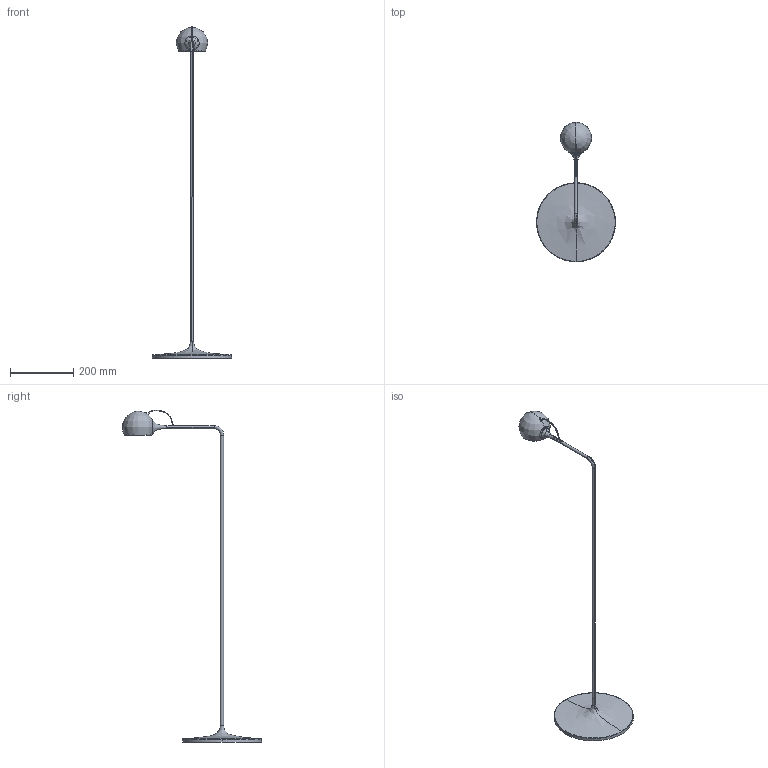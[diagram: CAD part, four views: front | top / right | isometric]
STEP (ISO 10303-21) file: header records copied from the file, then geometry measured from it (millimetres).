
FILE_DESCRIPTION(/* description */ (''),/* implementation_level */ '2;1');
FILE_NAME(/* name */ '086879_--IXA READING_SEMPL',/* time_stamp */ '2022-12-12T17:20:58+01:00',/* author */ (''),/* organization */ (''),/* preprocessor_version */ 'ST-DEVELOPER v16.5',/* originating_system */ 'Rhino 7.22',/* authorisation */ '');
FILE_SCHEMA (('AUTOMOTIVE_DESIGN'));
Length unit declared in the file: millimetre
Products named in the file (8): Document; Y201003232_--PULSANTE; WAP6161_--IXA LAV. SFERA CON PERNO SALDATO_MODEL; Y102016299_--SFERA METALLICA D100; Y203001026_--VELLUTO ADESIVO FUST. X SFERA; WAP6892_--IXA TUB.D10 LETTURA_INS.SALDATO; Y104004655_--IXA TUBOLARE D10 LETTURA; Y104004507_--RACCORDO TESTA
Assembly tree (7 placements, depth 3):
  Document
    Y201003232_--PULSANTE
    WAP6161_--IXA LAV. SFERA CON PERNO SALDATO_MODEL
      Y102016299_--SFERA METALLICA D100
    Y203001026_--VELLUTO ADESIVO FUST. X SFERA
    WAP6892_--IXA TUB.D10 LETTURA_INS.SALDATO
      Y104004655_--IXA TUBOLARE D10 LETTURA
    Y104004507_--RACCORDO TESTA
Bounding box: 250.05 x 439.99 x 1050.28 mm (x, y, z)
Volume: 868520.9 mm3; surface area: 226060.6 mm2
Topology: 7 solids, 10 shells, 108 faces, 278 edges, 180 vertices
Faces by surface type: bspline 57, cylinder 33, plane 18
Entity records: 5731 total; most frequent: CARTESIAN_POINT 3728, ORIENTED_EDGE 526, EDGE_CURVE 269, VERTEX_POINT 176, EDGE_LOOP 121, ADVANCED_FACE 108, FACE_OUTER_BOUND 108, B_SPLINE_CURVE_WITH_KNOTS 99
